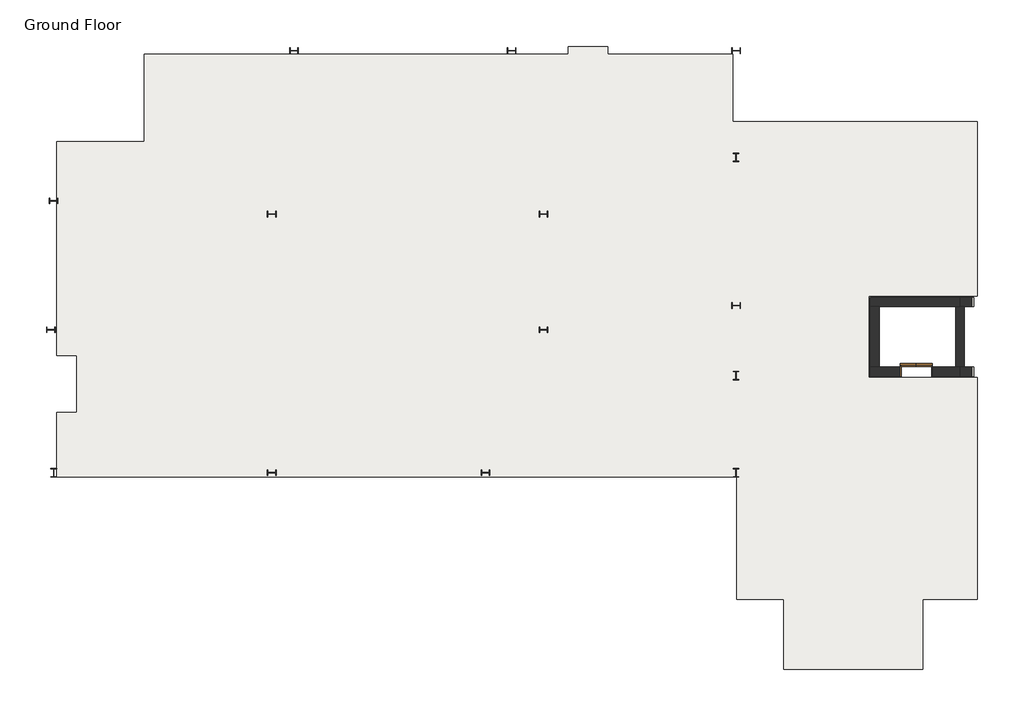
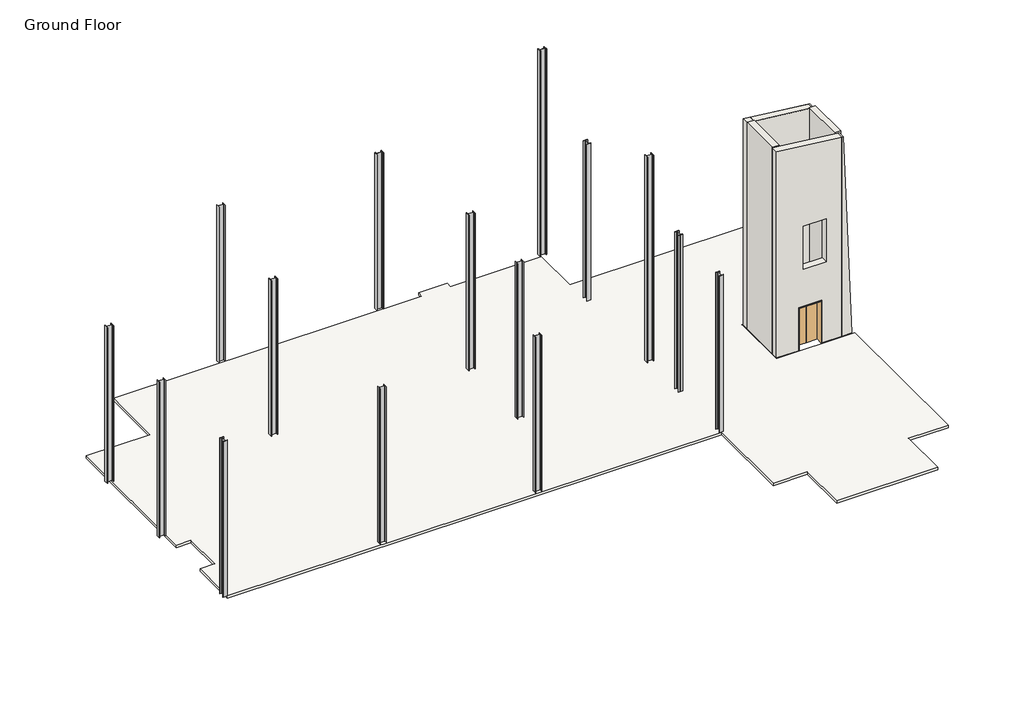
# One storey: 15 columns, 7 walls, 1 door, 1 slab.
"""IFC4 building model written with IfcOpenShell, lengths in millimetres."""

import ifcopenshell
import ifcopenshell.guid

model = None  # the IFC model being written
_history = None  # IfcOwnerHistory: only IFC2X3 demands one
_inside = {}  # id of a spatial element -> (the spatial element, [elements in it])
_under = {}  # id of a project, library or spatial element -> (it, [spatial elements below it])
_declared = {}  # id of a project -> (the project, [libraries it declares])
_typed = {}  # id of a type object -> (the type object, [elements of that type])
_made_of = {}  # id of a material, layer set ... -> (it, [elements and type objects made of it])


def new_model(schema):
    """Start an empty IFC model of exactly this schema.

    Asked for "IFC4X3", IfcOpenShell would pick the latest addendum, in which some entities
    have other attributes; the version numbers below select the first issue.
    IFC2X3 requires an IfcOwnerHistory on every rooted entity: one is made here for all.
    """
    global model, _history
    if schema == "IFC4X3":
        model = ifcopenshell.file(schema_version=(4, 3, 0, 0))
    else:
        model = ifcopenshell.file(schema=schema)
    _inside.clear()
    _under.clear()
    _declared.clear()
    _typed.clear()
    _made_of.clear()
    _history = None
    if model.schema == "IFC2X3":
        org = make("IfcOrganization", Name="unknown")
        user = make(
            "IfcPersonAndOrganization",
            ThePerson=make("IfcPerson", FamilyName="unknown"),
            TheOrganization=org,
        )
        app = make(
            "IfcApplication",
            ApplicationDeveloper=org,
            Version="unknown",
            ApplicationFullName="unknown",
            ApplicationIdentifier="unknown",
        )
        _history = make(
            "IfcOwnerHistory",
            OwningUser=user,
            OwningApplication=app,
            ChangeAction="ADDED",
            CreationDate=0,
        )
    return model


def make(cls, **values):
    """One entity of the class cls with the attributes given. An attribute that is None is left unset."""
    return model.create_entity(
        cls, **{name: value for name, value in values.items() if value is not None}
    )


def rooted(cls, **values):
    """An entity with a GlobalId (a new one), such as an element, a storey or a relation."""
    return make(cls, GlobalId=ifcopenshell.guid.new(), OwnerHistory=_history, **values)


def si_unit(unit_type, name, prefix=None):
    """IfcSIUnit, for example si_unit("LENGTHUNIT", "METRE", prefix="MILLI")."""
    return make("IfcSIUnit", UnitType=unit_type, Prefix=prefix, Name=name)


def assignment(units):
    """IfcUnitAssignment: the units of a project."""
    return None if units is None else make("IfcUnitAssignment", Units=units)


def point(xyz):
    """IfcCartesianPoint."""
    return None if xyz is None else make("IfcCartesianPoint", Coordinates=xyz)


def direction(xyz):
    """IfcDirection."""
    return None if xyz is None else make("IfcDirection", DirectionRatios=xyz)


def frame(location, z_axis=None, x_axis=None):
    """IfcAxis2Placement3D, a coordinate frame: its origin and axes. An axis left out is left unset."""
    return make(
        "IfcAxis2Placement3D",
        Location=point(location),
        Axis=direction(z_axis),
        RefDirection=direction(x_axis),
    )


def frame_2d(location, x_axis=None):
    """IfcAxis2Placement2D, a coordinate frame in the plane: its origin and x axis."""
    return make(
        "IfcAxis2Placement2D", Location=point(location), RefDirection=direction(x_axis)
    )


def origin():
    """The frame at (0, 0, 0) with its axes left unset."""
    return frame((0.0, 0.0, 0.0))


def origin_with_axes():
    """The frame at (0, 0, 0) with the z axis (0, 0, 1) and the x axis (1, 0, 0) written out."""
    return frame((0.0, 0.0, 0.0), z_axis=(0.0, 0.0, 1.0), x_axis=(1.0, 0.0, 0.0))


def place(relative_to, where):
    """IfcLocalPlacement: puts the frame where relative to a parent placement (None: the world)."""
    return make(
        "IfcLocalPlacement", PlacementRelTo=relative_to, RelativePlacement=where
    )


def context(
    kind, dimensions, precision=None, world=None, true_north=None, identifier=None
):
    """IfcGeometricRepresentationContext, for example the 3D "Model" context."""
    return make(
        "IfcGeometricRepresentationContext",
        ContextIdentifier=identifier,
        ContextType=kind,
        CoordinateSpaceDimension=dimensions,
        Precision=precision,
        WorldCoordinateSystem=world,
        TrueNorth=true_north,
    )


def project(units=None, contexts=None):
    """IfcProject with its units and contexts."""
    return rooted(
        "IfcProject",
        Name="project",
        RepresentationContexts=contexts,
        UnitsInContext=assignment(units),
    )


def spatial(cls, under=None, at=None, **own):
    """A site, building, storey or space (cls), placed at a placement, below another one or the project."""
    s = rooted(cls, ObjectPlacement=at, **own)
    if under is not None:
        _under.setdefault(under.id(), (under, []))[1].append(s)
    return s


def polyline(points):
    """IfcPolyline through the points."""
    return make("IfcPolyline", Points=[point(p) for p in points])


def circle_curve(where, radius):
    """IfcCircle in the frame where."""
    return make("IfcCircle", Position=where, Radius=radius)


def trimmed(basis, trim1, trim2, sense, master):
    """IfcTrimmedCurve: the piece of a basis curve between two trims."""
    return make(
        "IfcTrimmedCurve",
        BasisCurve=basis,
        Trim1=trim1,
        Trim2=trim2,
        SenseAgreement=sense,
        MasterRepresentation=master,
    )


def segment(curve, same_sense, transition):
    """IfcCompositeCurveSegment."""
    return make(
        "IfcCompositeCurveSegment",
        Transition=transition,
        SameSense=same_sense,
        ParentCurve=curve,
    )


def composite_curve(segments, self_intersect=None):
    """IfcCompositeCurve: segments joined end to end."""
    return make("IfcCompositeCurve", Segments=segments, SelfIntersect=self_intersect)


def outline(outer, holes=None, kind="AREA"):
    """IfcArbitraryClosedProfileDef: a profile drawn as a closed curve; with holes, ...WithVoids."""
    if holes is None:
        return make("IfcArbitraryClosedProfileDef", ProfileType=kind, OuterCurve=outer)
    return make(
        "IfcArbitraryProfileDefWithVoids",
        ProfileType=kind,
        OuterCurve=outer,
        InnerCurves=holes,
    )


def extrude(swept, where, along, depth):
    """IfcExtrudedAreaSolid: the profile swept, set in the frame where, extruded along a direction by depth."""
    return make(
        "IfcExtrudedAreaSolid",
        SweptArea=swept,
        Position=where,
        ExtrudedDirection=direction(along),
        Depth=depth,
    )


def faces_of(points, faces, orient=None, outer=None):
    """IfcFace entities. A face is a list of loops; a loop is a list of indices into points, from 0.

    orient and outer hold one flag for each loop. By default every Orientation is true, the
    first loop of a face is its IfcFaceOuterBound and the others are IfcFaceBound.
    """
    made = []
    for i, loops in enumerate(faces):
        bounds = []
        for j, loop in enumerate(loops):
            is_outer = j == 0 if outer is None else outer[i][j]
            bounds.append(
                make(
                    "IfcFaceOuterBound" if is_outer else "IfcFaceBound",
                    Bound=make("IfcPolyLoop", Polygon=[points[k] for k in loop]),
                    Orientation=True if orient is None else orient[i][j],
                )
            )
        made.append(make("IfcFace", Bounds=bounds))
    return made


def faceted_brep(points, faces, orient=None, outer=None, voids=None):
    """IfcFacetedBrep: a solid bounded by flat faces; with voids (closed shells), ...WithVoids."""
    shared = [point(p) for p in points]
    hull = make("IfcClosedShell", CfsFaces=faces_of(shared, faces, orient, outer))
    if voids is None:
        return make("IfcFacetedBrep", Outer=hull)
    return make(
        "IfcFacetedBrepWithVoids",
        Outer=hull,
        Voids=[
            make(cls, CfsFaces=faces_of(shared, fs, o, b)) for cls, fs, o, b in voids
        ],
    )


def shape(context_of_items, identifier, shape_type, items):
    """IfcShapeRepresentation: the items that make up one representation, for example the "Body"."""
    return make(
        "IfcShapeRepresentation",
        ContextOfItems=context_of_items,
        RepresentationIdentifier=identifier,
        RepresentationType=shape_type,
        Items=items,
    )


def source(mapping_origin, context_of_items, identifier, shape_type, items):
    """IfcRepresentationMap: a shape defined once, which mapped items show again and again."""
    return make(
        "IfcRepresentationMap",
        MappingOrigin=mapping_origin,
        MappedRepresentation=shape(context_of_items, identifier, shape_type, items),
    )


def transform(
    local_origin,
    x_axis=None,
    y_axis=None,
    z_axis=None,
    scale=None,
    scale2=None,
    scale3=None,
    uniform=True,
):
    """IfcCartesianTransformationOperator3D, or its non-uniform kind. x_axis, y_axis, z_axis: its Axis1, 2, 3."""
    if uniform:
        return make(
            "IfcCartesianTransformationOperator3D",
            Axis1=direction(x_axis),
            Axis2=direction(y_axis),
            LocalOrigin=point(local_origin),
            Scale=scale,
            Axis3=direction(z_axis),
        )
    return make(
        "IfcCartesianTransformationOperator3DnonUniform",
        Axis1=direction(x_axis),
        Axis2=direction(y_axis),
        LocalOrigin=point(local_origin),
        Scale=scale,
        Axis3=direction(z_axis),
        Scale2=scale2,
        Scale3=scale3,
    )


def mapped(mapping_source, mapping_target):
    """IfcMappedItem: shows the shape of a source again, moved by a transform."""
    return make(
        "IfcMappedItem", MappingSource=mapping_source, MappingTarget=mapping_target
    )


def made_of(thing, what):
    """Note that an element or type object is made of a material, layer set ...; save() writes the relation."""
    if what is not None:
        _made_of.setdefault(what.id(), (what, []))[1].append(thing)
    return thing


def element(
    cls,
    number,
    at=None,
    inside=None,
    cuts=None,
    type_object=None,
    material=None,
    context=None,
    identifier="Body",
    shape_type=None,
    held_by="IfcProductDefinitionShape",
    body=None,
    shapes=None,
    **own,
):
    """One element of the class cls, such as IfcWall. Its Tag is "e" and its number.

    at: its placement. inside: the storey or other place that contains it. cuts: it is an
    opening in that element (IfcRelVoidsElement). A single representation is given by context,
    identifier, shape_type and body (its items); several are given by shapes. held_by: the class
    of the entity that holds the representations. save() writes the other relations.
    """
    e = rooted(cls, Tag="e%d" % number, ObjectPlacement=at, **own)
    if body is not None:
        shapes = [shape(context, identifier, shape_type, body)]
    if shapes is not None:
        e.Representation = make(held_by, Representations=shapes)
    if inside is not None:
        _inside.setdefault(inside.id(), (inside, []))[1].append(e)
    if cuts is not None:
        rooted(
            "IfcRelVoidsElement", RelatingBuildingElement=cuts, RelatedOpeningElement=e
        )
    if type_object is not None:
        _typed.setdefault(type_object.id(), (type_object, []))[1].append(e)
    return made_of(e, material)


def aggregate(whole, parts):
    """IfcRelAggregates: a whole, such as a stair, and the parts it consists of."""
    return rooted("IfcRelAggregates", RelatingObject=whole, RelatedObjects=parts)


def save(model, path):
    """Write the relations noted so far, then the file.

    IfcRelAggregates (storeys below a building ...), IfcRelContainedInSpatialStructure (elements
    in a storey), IfcRelDefinesByType, IfcRelAssociatesMaterial and IfcRelDeclares: one each for
    every whole, place, type object, material and project.
    """
    for whole, parts in _under.values():
        aggregate(whole, parts)
    for where, things in _inside.values():
        rooted(
            "IfcRelContainedInSpatialStructure",
            RelatedElements=things,
            RelatingStructure=where,
        )
    for kind, things in _typed.values():
        rooted("IfcRelDefinesByType", RelatedObjects=things, RelatingType=kind)
    for what, things in _made_of.values():
        rooted("IfcRelAssociatesMaterial", RelatedObjects=things, RelatingMaterial=what)
    for by, libraries in _declared.values():
        rooted("IfcRelDeclares", RelatingContext=by, RelatedDefinitions=libraries)
    model.write(path)


def w_wide_flange_column_w12x40_bfea6e2c(model_context):
    return source(origin(), model_context, "Body", "SweptSolid", [
        extrude(outline(composite_curve([segment(polyline([(101.6496094, 151.6558594), (101.6496094, 138.5589844), (25.5984375, 138.5589844)]), True, "CONTINUOUS"), segment(trimmed(circle_curve(frame_2d((25.5984375, 116.7308594)), 21.828125), [point((25.5984375, 138.5589844))], [point((3.7703125, 116.7308594))], True, "CARTESIAN"), True, "CONTINUOUS"), segment(polyline([(3.7703125, 116.7308594), (3.7703125, -116.7308594)]), True, "CONTINUOUS"), segment(trimmed(circle_curve(frame_2d((25.5984375, -116.7308594)), 21.828125), [point((3.7703125, -116.7308594))], [point((25.5984375, -138.5589844))], True, "CARTESIAN"), True, "CONTINUOUS"), segment(polyline([(25.5984375, -138.5589844), (101.6496094, -138.5589844), (101.6496094, -151.6558594), (-101.6496094, -151.6558594), (-101.6496094, -138.5589844), (-25.5984375, -138.5589844)]), True, "CONTINUOUS"), segment(trimmed(circle_curve(frame_2d((-25.5984375, -116.7308594)), 21.828125), [point((-25.5984375, -138.5589844))], [point((-3.7703125, -116.7308594))], True, "CARTESIAN"), True, "CONTINUOUS"), segment(polyline([(-3.7703125, -116.7308594), (-3.7703125, 116.7308594)]), True, "CONTINUOUS"), segment(trimmed(circle_curve(frame_2d((-25.5984375, 116.7308594)), 21.828125), [point((-3.7703125, 116.7308594))], [point((-25.5984375, 138.5589844))], True, "CARTESIAN"), True, "CONTINUOUS"), segment(polyline([(-25.5984375, 138.5589844), (-101.6496094, 138.5589844), (-101.6496094, 151.6558594), (101.6496094, 151.6558594)]), True, "CONTINUOUS")], self_intersect=False)), frame((0.0, 0.0, 30480.0), z_axis=(0.0, 0.0, 1.0), x_axis=(1.0, 0.0, 0.0)), (0.0, 0.0, 1.0), 7924.8),
    ])


def door_aaeb5b8c(model_context):
    return source(origin(), model_context, "Body", "SweptSolid", [
        extrude(outline(polyline([(0.0, 234.95), (0.0, 279.4), (558.8, 279.4), (558.8, 234.95), (0.0, 234.95)])), origin_with_axes(), (0.0, 0.0, 1.0), 2184.4),
        extrude(outline(polyline([(0.0, 234.95), (-558.8, 234.95), (-558.8, 279.4), (0.0, 279.4), (0.0, 234.95)])), origin_with_axes(), (0.0, 0.0, 1.0), 2184.4),
        extrude(outline(polyline([(-533.4, -165.1), (-558.8, -165.1), (-558.8, 177.8), (-533.4, 177.8), (-533.4, -165.1)])), origin_with_axes(), (0.0, 0.0, 1.0), 2184.4),
        extrude(outline(polyline([(558.8, -165.1), (533.4, -165.1), (533.4, 177.8), (558.8, 177.8), (558.8, -165.1)])), origin_with_axes(), (0.0, 0.0, 1.0), 2184.4),
        extrude(outline(polyline([(482.6, 165.1), (482.6, -165.1), (-482.6, -165.1), (-482.6, 165.1), (482.6, 165.1)])), frame((0.0, 0.0, 2133.6), z_axis=(0.0, 0.0, 1.0), x_axis=(1.0, 0.0, 0.0)), (0.0, 0.0, 1.0), 50.8),
        extrude(outline(polyline([(0.0, 177.8), (0.0, 222.25), (558.8, 222.25), (558.8, 177.8), (0.0, 177.8)])), origin_with_axes(), (0.0, 0.0, 1.0), 2184.4),
        extrude(outline(polyline([(0.0, 177.8), (-558.8, 177.8), (-558.8, 222.25), (0.0, 222.25), (0.0, 177.8)])), origin_with_axes(), (0.0, 0.0, 1.0), 2184.4),
    ])


model = new_model("IFC4")

# Units and contexts
model_context = context("Model", 3, world=origin())
ifc_project = project(units=[si_unit("LENGTHUNIT", "METRE", prefix="MILLI")], contexts=[model_context])

# Site, building, storey
site = spatial("IfcSite", under=ifc_project)
building = spatial("IfcBuilding", under=site)
storey = spatial("IfcBuildingStorey", under=building, Name="Ground Floor", Elevation=30480.0)

# Columns
placement = place(None, origin())
element("IfcColumn", 1, ObjectType="W-Wide Flange-Column : W12X40", at=placement, inside=storey, context=model_context, shape_type="SweptSolid", body=[
    extrude(outline(composite_curve([segment(polyline([(13669.3791487, -6791.0746401), (13669.3791487, -6804.1715151), (13593.3279768, -6804.1715151)]), True, "CONTINUOUS"), segment(trimmed(circle_curve(frame_2d((13593.3279768, -6825.9996401)), 21.828125), [point((13593.3279768, -6804.1715151))], [point((13571.4998518, -6825.9996401))], True, "CARTESIAN"), True, "CONTINUOUS"), segment(polyline([(13571.4998518, -6825.9996401), (13571.4998518, -7059.4613589)]), True, "CONTINUOUS"), segment(trimmed(circle_curve(frame_2d((13593.3279768, -7059.4613589)), 21.828125), [point((13571.4998518, -7059.4613589))], [point((13593.3279768, -7081.2894839))], True, "CARTESIAN"), True, "CONTINUOUS"), segment(polyline([(13593.3279768, -7081.2894839), (13669.3791487, -7081.2894839), (13669.3791487, -7094.3863589), (13466.0799299, -7094.3863589), (13466.0799299, -7081.2894839), (13542.1311018, -7081.2894839)]), True, "CONTINUOUS"), segment(trimmed(circle_curve(frame_2d((13542.1311018, -7059.4613589)), 21.828125), [point((13542.1311018, -7081.2894839))], [point((13563.9592268, -7059.4613589))], True, "CARTESIAN"), True, "CONTINUOUS"), segment(polyline([(13563.9592268, -7059.4613589), (13563.9592268, -6825.9996401)]), True, "CONTINUOUS"), segment(trimmed(circle_curve(frame_2d((13542.1311018, -6825.9996401)), 21.828125), [point((13563.9592268, -6825.9996401))], [point((13542.1311018, -6804.1715151))], True, "CARTESIAN"), True, "CONTINUOUS"), segment(polyline([(13542.1311018, -6804.1715151), (13466.0799299, -6804.1715151), (13466.0799299, -6791.0746401), (13669.3791487, -6791.0746401)]), True, "CONTINUOUS")], self_intersect=False)), frame((0.0, 0.0, 30480.0), z_axis=(0.0, 0.0, 1.0), x_axis=(1.0, 0.0, 0.0)), (0.0, 0.0, 1.0), 7988.3),
])
element("IfcColumn", 2, ObjectType="W-Wide Flange-Column : W12X40", at=placement, inside=storey, context=model_context, shape_type="SweptSolid", body=[
    extrude(outline(composite_curve([segment(polyline([(-10575.3444063, -1833.0779639), (-10562.2475313, -1833.0779639), (-10562.2475313, -1909.1291357)]), True, "CONTINUOUS"), segment(trimmed(circle_curve(frame_2d((-10540.4194063, -1909.1291357)), 21.828125), [point((-10562.2475313, -1909.1291357))], [point((-10540.4194063, -1930.9572607))], True, "CARTESIAN"), True, "CONTINUOUS"), segment(polyline([(-10540.4194063, -1930.9572607), (-10306.9576875, -1930.9572607)]), True, "CONTINUOUS"), segment(trimmed(circle_curve(frame_2d((-10306.9576875, -1909.1291357)), 21.828125), [point((-10306.9576875, -1930.9572607))], [point((-10285.1295625, -1909.1291357))], True, "CARTESIAN"), True, "CONTINUOUS"), segment(polyline([(-10285.1295625, -1909.1291357), (-10285.1295625, -1833.0779639), (-10272.0326875, -1833.0779639), (-10272.0326875, -2036.3771826), (-10285.1295625, -2036.3771826), (-10285.1295625, -1960.3260107)]), True, "CONTINUOUS"), segment(trimmed(circle_curve(frame_2d((-10306.9576875, -1960.3260107)), 21.828125), [point((-10285.1295625, -1960.3260107))], [point((-10306.9576875, -1938.4978857))], True, "CARTESIAN"), True, "CONTINUOUS"), segment(polyline([(-10306.9576875, -1938.4978857), (-10540.4194063, -1938.4978857)]), True, "CONTINUOUS"), segment(trimmed(circle_curve(frame_2d((-10540.4194063, -1960.3260107)), 21.828125), [point((-10540.4194063, -1938.4978857))], [point((-10562.2475313, -1960.3260107))], True, "CARTESIAN"), True, "CONTINUOUS"), segment(polyline([(-10562.2475313, -1960.3260107), (-10562.2475313, -2036.3771826), (-10575.3444063, -2036.3771826), (-10575.3444063, -1833.0779639)]), True, "CONTINUOUS")], self_intersect=False)), frame((0.0, 0.0, 30480.0), z_axis=(0.0, 0.0, 1.0), x_axis=(1.0, 0.0, 0.0)), (0.0, 0.0, 1.0), 7924.8),
])
element("IfcColumn", 3, ObjectType="W-Wide Flange-Column : W12X40", at=placement, inside=storey, context=model_context, shape_type="SweptSolid", body=[
    extrude(outline(composite_curve([segment(polyline([(13416.0736799, 7944.8941099), (13429.1705549, 7944.8941099), (13429.1705549, 7868.842938)]), True, "CONTINUOUS"), segment(trimmed(circle_curve(frame_2d((13450.9986799, 7868.842938)), 21.828125), [point((13429.1705549, 7868.842938))], [point((13450.9986799, 7847.014813))], True, "CARTESIAN"), True, "CONTINUOUS"), segment(polyline([(13450.9986799, 7847.014813), (13684.4603987, 7847.014813)]), True, "CONTINUOUS"), segment(trimmed(circle_curve(frame_2d((13684.4603987, 7868.842938)), 21.828125), [point((13684.4603987, 7847.014813))], [point((13706.2885237, 7868.842938))], True, "CARTESIAN"), True, "CONTINUOUS"), segment(polyline([(13706.2885237, 7868.842938), (13706.2885237, 7944.8941099), (13719.3853987, 7944.8941099), (13719.3853987, 7741.5948911), (13706.2885237, 7741.5948911), (13706.2885237, 7817.646063)]), True, "CONTINUOUS"), segment(trimmed(circle_curve(frame_2d((13684.4603987, 7817.646063)), 21.828125), [point((13706.2885237, 7817.646063))], [point((13684.4603987, 7839.474188))], True, "CARTESIAN"), True, "CONTINUOUS"), segment(polyline([(13684.4603987, 7839.474188), (13450.9986799, 7839.474188)]), True, "CONTINUOUS"), segment(trimmed(circle_curve(frame_2d((13450.9986799, 7817.646063)), 21.828125), [point((13450.9986799, 7839.474188))], [point((13429.1705549, 7817.646063))], True, "CARTESIAN"), True, "CONTINUOUS"), segment(polyline([(13429.1705549, 7817.646063), (13429.1705549, 7741.5948911), (13416.0736799, 7741.5948911), (13416.0736799, 7944.8941099)]), True, "CONTINUOUS")], self_intersect=False)), frame((0.0, 0.0, 30480.0), z_axis=(0.0, 0.0, 1.0), x_axis=(1.0, 0.0, 0.0)), (0.0, 0.0, 1.0), 10466.7908493),
])
element("IfcColumn", 4, ObjectType="W-Wide Flange-Column : W12X40", at=placement, inside=storey, context=model_context, shape_type="SweptSolid", body=[
    extrude(outline(composite_curve([segment(polyline([(13466.0799299, 3954.6136411), (13466.0799299, 3967.7105161), (13542.1311018, 3967.7105161)]), True, "CONTINUOUS"), segment(trimmed(circle_curve(frame_2d((13542.1311018, 3989.5386411)), 21.828125), [point((13542.1311018, 3967.7105161))], [point((13563.9592268, 3989.5386411))], True, "CARTESIAN"), True, "CONTINUOUS"), segment(polyline([(13563.9592268, 3989.5386411), (13563.9592268, 4223.0003599)]), True, "CONTINUOUS"), segment(trimmed(circle_curve(frame_2d((13542.1311018, 4223.0003599)), 21.828125), [point((13563.9592268, 4223.0003599))], [point((13542.1311018, 4244.8284849))], True, "CARTESIAN"), True, "CONTINUOUS"), segment(polyline([(13542.1311018, 4244.8284849), (13466.0799299, 4244.8284849), (13466.0799299, 4257.9253599), (13669.3791487, 4257.9253599), (13669.3791487, 4244.8284849), (13593.3279768, 4244.8284849)]), True, "CONTINUOUS"), segment(trimmed(circle_curve(frame_2d((13593.3279768, 4223.0003599)), 21.828125), [point((13593.3279768, 4244.8284849))], [point((13571.4998518, 4223.0003599))], True, "CARTESIAN"), True, "CONTINUOUS"), segment(polyline([(13571.4998518, 4223.0003599), (13571.4998518, 3989.5386411)]), True, "CONTINUOUS"), segment(trimmed(circle_curve(frame_2d((13593.3279768, 3989.5386411)), 21.828125), [point((13571.4998518, 3989.5386411))], [point((13593.3279768, 3967.7105161))], True, "CARTESIAN"), True, "CONTINUOUS"), segment(polyline([(13593.3279768, 3967.7105161), (13669.3791487, 3967.7105161), (13669.3791487, 3954.6136411), (13466.0799299, 3954.6136411)]), True, "CONTINUOUS")], self_intersect=False)), frame((0.0, 0.0, 30480.0), z_axis=(0.0, 0.0, 1.0), x_axis=(1.0, 0.0, 0.0)), (0.0, 0.0, 1.0), 7988.3),
])
element("IfcColumn", 5, ObjectType="W-Wide Flange-Column : W12X40", at=placement, inside=storey, context=model_context, shape_type="SweptSolid", body=[
    extrude(outline(composite_curve([segment(polyline([(13719.3853987, -1186.5051089), (13706.2885237, -1186.5051089), (13706.2885237, -1110.453937)]), True, "CONTINUOUS"), segment(trimmed(circle_curve(frame_2d((13684.4603987, -1110.453937)), 21.828125), [point((13706.2885237, -1110.453937))], [point((13684.4603987, -1088.625812))], True, "CARTESIAN"), True, "CONTINUOUS"), segment(polyline([(13684.4603987, -1088.625812), (13450.9986799, -1088.625812)]), True, "CONTINUOUS"), segment(trimmed(circle_curve(frame_2d((13450.9986799, -1110.453937)), 21.828125), [point((13450.9986799, -1088.625812))], [point((13429.1705549, -1110.453937))], True, "CARTESIAN"), True, "CONTINUOUS"), segment(polyline([(13429.1705549, -1110.453937), (13429.1705549, -1186.5051089), (13416.0736799, -1186.5051089), (13416.0736799, -983.2058901), (13429.1705549, -983.2058901), (13429.1705549, -1059.257062)]), True, "CONTINUOUS"), segment(trimmed(circle_curve(frame_2d((13450.9986799, -1059.257062)), 21.828125), [point((13429.1705549, -1059.257062))], [point((13450.9986799, -1081.085187))], True, "CARTESIAN"), True, "CONTINUOUS"), segment(polyline([(13450.9986799, -1081.085187), (13684.4603987, -1081.085187)]), True, "CONTINUOUS"), segment(trimmed(circle_curve(frame_2d((13684.4603987, -1059.257062)), 21.828125), [point((13684.4603987, -1081.085187))], [point((13706.2885237, -1059.257062))], True, "CARTESIAN"), True, "CONTINUOUS"), segment(polyline([(13706.2885237, -1059.257062), (13706.2885237, -983.2058901), (13719.3853987, -983.2058901), (13719.3853987, -1186.5051089)]), True, "CONTINUOUS")], self_intersect=False)), frame((0.0, 0.0, 30480.0), z_axis=(0.0, 0.0, 1.0), x_axis=(1.0, 0.0, 0.0)), (0.0, 0.0, 1.0), 10466.8036839),
])
element("IfcColumn", 6, ObjectType="W-Wide Flange-Column : W12X40", at=placement, inside=storey, context=model_context, shape_type="SweptSolid", body=[
    extrude(outline(composite_curve([segment(polyline([(13669.3791487, -3387.4746401), (13669.3791487, -3400.5715151), (13593.3279768, -3400.5715151)]), True, "CONTINUOUS"), segment(trimmed(circle_curve(frame_2d((13593.3279768, -3422.3996401)), 21.828125), [point((13593.3279768, -3400.5715151))], [point((13571.4998518, -3422.3996401))], True, "CARTESIAN"), True, "CONTINUOUS"), segment(polyline([(13571.4998518, -3422.3996401), (13571.4998518, -3655.8613589)]), True, "CONTINUOUS"), segment(trimmed(circle_curve(frame_2d((13593.3279768, -3655.8613589)), 21.828125), [point((13571.4998518, -3655.8613589))], [point((13593.3279768, -3677.6894839))], True, "CARTESIAN"), True, "CONTINUOUS"), segment(polyline([(13593.3279768, -3677.6894839), (13669.3791487, -3677.6894839), (13669.3791487, -3690.7863589), (13466.0799299, -3690.7863589), (13466.0799299, -3677.6894839), (13542.1311018, -3677.6894839)]), True, "CONTINUOUS"), segment(trimmed(circle_curve(frame_2d((13542.1311018, -3655.8613589)), 21.828125), [point((13542.1311018, -3677.6894839))], [point((13563.9592268, -3655.8613589))], True, "CARTESIAN"), True, "CONTINUOUS"), segment(polyline([(13563.9592268, -3655.8613589), (13563.9592268, -3422.3996401)]), True, "CONTINUOUS"), segment(trimmed(circle_curve(frame_2d((13542.1311018, -3422.3996401)), 21.828125), [point((13563.9592268, -3422.3996401))], [point((13542.1311018, -3400.5715151))], True, "CARTESIAN"), True, "CONTINUOUS"), segment(polyline([(13542.1311018, -3400.5715151), (13466.0799299, -3400.5715151), (13466.0799299, -3387.4746401), (13669.3791487, -3387.4746401)]), True, "CONTINUOUS")], self_intersect=False)), frame((0.0, 0.0, 30480.0), z_axis=(0.0, 0.0, 1.0), x_axis=(1.0, 0.0, 0.0)), (0.0, 0.0, 1.0), 7988.3),
])
w_wide_flange_column_w12x40_shape = w_wide_flange_column_w12x40_bfea6e2c(model_context)
element("IfcColumn", 7, ObjectType="W-Wide Flange-Column : W12X40", at=placement, inside=storey, context=model_context, shape_type="MappedRepresentation", body=[
    mapped(w_wide_flange_column_w12x40_shape, transform((-10327.3204607, -6942.7304995, 0.0), x_axis=(1.0, 0.0, 0.0), y_axis=(0.0, 1.0, 0.0), z_axis=(0.0, 0.0, 1.0))),
])
element("IfcColumn", 8, ObjectType="W-Wide Flange-Column : W12X40", at=placement, inside=storey, context=model_context, shape_type="MappedRepresentation", body=[
    mapped(w_wide_flange_column_w12x40_shape, transform((-2689.8579607, -6942.7304995, 0.0), x_axis=(0.0, 1.0000000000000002, 0.0), y_axis=(-1.0000000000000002, 0.0, 0.0), z_axis=(0.0, 0.0, 1.0))),
])
element("IfcColumn", 9, ObjectType="W-Wide Flange-Column : W12X40", at=placement, inside=storey, context=model_context, shape_type="MappedRepresentation", body=[
    mapped(w_wide_flange_column_w12x40_shape, transform((4795.2045393, -6942.7304995, 0.0), x_axis=(0.0, 1.0000000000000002, 0.0), y_axis=(-1.0000000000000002, 0.0, 0.0), z_axis=(0.0, 0.0, 1.0))),
])
element("IfcColumn", 10, ObjectType="W-Wide Flange-Column : W12X40", at=placement, inside=storey, context=model_context, shape_type="MappedRepresentation", body=[
    mapped(w_wide_flange_column_w12x40_shape, transform((6825.6170393, -1935.7554995, 0.0), x_axis=(0.0, -1.0000000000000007, 0.0), y_axis=(1.0000000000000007, 0.0, 0.0), z_axis=(0.0, 0.0, 1.0))),
])
element("IfcColumn", 11, ObjectType="W-Wide Flange-Column : W12X40", at=placement, inside=storey, context=model_context, shape_type="MappedRepresentation", body=[
    mapped(w_wide_flange_column_w12x40_shape, transform((-2689.8579607, 2125.0695005, 0.0), x_axis=(0.0, 1.0, 0.0), y_axis=(-1.0, 0.0, 0.0), z_axis=(0.0, 0.0, 1.0))),
])
element("IfcColumn", 12, ObjectType="W-Wide Flange-Column : W12X40", at=placement, inside=storey, context=model_context, shape_type="MappedRepresentation", body=[
    mapped(w_wide_flange_column_w12x40_shape, transform((6825.6170393, 2125.0695005, 0.0), x_axis=(0.0, 1.0000000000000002, 0.0), y_axis=(-1.0000000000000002, 0.0, 0.0), z_axis=(0.0, 0.0, 1.0))),
])
element("IfcColumn", 13, ObjectType="W-Wide Flange-Column : W12X40", at=placement, inside=storey, context=model_context, shape_type="MappedRepresentation", body=[
    mapped(w_wide_flange_column_w12x40_shape, transform((-1910.3954607, 7843.2445005, 0.0), x_axis=(0.0, 1.0000000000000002, 0.0), y_axis=(-1.0000000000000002, 0.0, 0.0), z_axis=(0.0, 0.0, 1.0))),
])
element("IfcColumn", 14, ObjectType="W-Wide Flange-Column : W12X40", at=placement, inside=storey, context=model_context, shape_type="MappedRepresentation", body=[
    mapped(w_wide_flange_column_w12x40_shape, transform((5709.6045393, 7843.2445005, 0.0), x_axis=(0.0, 1.0000000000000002, 0.0), y_axis=(-1.0000000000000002, 0.0, 0.0), z_axis=(0.0, 0.0, 1.0))),
])
element("IfcColumn", 15, ObjectType="W-Wide Flange-Column : W12X40", at=placement, inside=storey, context=model_context, shape_type="MappedRepresentation", body=[
    mapped(w_wide_flange_column_w12x40_shape, transform((-10327.3204607, 2582.2695005, 0.0), x_axis=(0.0, 1.0000000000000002, 0.0), y_axis=(-1.0000000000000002, 0.0, 0.0), z_axis=(0.0, 0.0, 1.0))),
])

# Door
door_shape = door_aaeb5b8c(model_context)
element("IfcDoor", 16, ObjectType="Elevator_Door_CabCenter-Genericrfa : 42\" Opening", at=placement, inside=storey, context=model_context, shape_type="MappedRepresentation", body=[
    mapped(door_shape, transform((19883.5486799, -3399.4304995, 30480.0), x_axis=(1.0, 0.0, 0.0), y_axis=(0.0, 1.0, 0.0), z_axis=(0.0, 0.0, 1.0))),
])

# Slab
element("IfcSlab", 17, ObjectType="5\" Concrete", at=placement, inside=storey, context=model_context, shape_type="SweptSolid", body=[
    extrude(outline(polyline([(7700.3295393, 7725.7695005), (7700.3295393, 7992.4695005), (9071.9295393, 7992.4695005), (9071.9295393, 7725.7695005), (13450.2545393, 7725.7695005), (13450.2545393, 5350.8695005), (22019.578935, 5350.8695005), (22019.578935, -757.8304995), (18219.8486799, -757.8304995), (18219.8486799, -3602.6304995), (22019.578935, -3602.6304995), (22019.578935, -11381.3804995), (20105.0545393, -11381.3804995), (20105.0545393, -13826.1304995), (15240.9545393, -13826.1304995), (15240.9545393, -11381.3804995), (13583.6045393, -11381.3804995), (13583.6045393, -7095.1304995), (-10225.7204607, -7095.1304995), (-10225.7204607, -4821.8304995), (-9524.0454607, -4821.8304995), (-9524.0454607, -2837.4554995), (-10225.7204607, -2837.4554995), (-10225.7204607, 4661.8945005), (-7149.1454607, 4661.8945005), (-7149.1454607, 7725.7695005), (7700.3295393, 7725.7695005)])), frame((0.0, 0.0, 30353.0), z_axis=(0.0, 0.0, 1.0), x_axis=(1.0, 0.0, 0.0)), (0.0, 0.0, 1.0), 127.0),
])

# Walls
element("IfcWall", 18, ObjectType="Elevator Wall - 12\" CMU w furring & Wood Planks", at=placement, inside=storey, context=model_context, shape_type="Brep", body=[
    faceted_brep([(18588.1486799, -3234.3304995, 30480.0), (18588.1486799, -1126.1304995, 30480.0), (18588.1486799, -1126.1304995, 40995.6), (18588.1486799, -3234.3304995, 40995.6), (18257.9486799, -3234.3304995, 30480.0), (18257.9486799, -3234.3304995, 40981.1907931), (18257.9486799, -3234.3304995, 40995.6), (18257.9486799, -1126.1304995, 40995.6), (18257.9486799, -1126.1304995, 40981.1907931), (18257.9486799, -1126.1304995, 30480.0)], [[[0, 1, 2, 3]], [[4, 5, 6, 7, 8, 9]], [[1, 0, 4, 9]], [[3, 2, 7, 6]], [[2, 1, 9, 8, 7]], [[0, 3, 6, 5, 4]]]),
])
element("IfcWall", 19, ObjectType="Elevator Wall - 12\" CMU w furring & Wood Planks", at=placement, inside=storey, context=model_context, shape_type="Brep", body=[
    faceted_brep([(18257.9486799, -1126.1304995, 40981.1907931), (18257.9486799, -1126.1304995, 30480.0), (18588.1486799, -1126.1304995, 30480.0), (21255.1486799, -1126.1304995, 30480.0), (21402.7861799, -1126.1304995, 30480.0), (21402.7861799, -1126.1304995, 40629.44646), (18257.9486799, -795.9304995, 30480.0), (18257.9486799, -795.9304995, 40981.1907931), (21402.7861799, -795.9304995, 40629.44646), (21402.7861799, -795.9304995, 30480.0)], [[[0, 1, 2, 3, 4, 5]], [[6, 7, 8, 9]], [[0, 7, 6, 1]], [[4, 3, 2, 1, 6, 9]], [[5, 4, 9, 8]], [[0, 5, 8, 7]]]),
])
element("IfcWall", 20, ObjectType="Elevator Wall - 12\" CMU w furring & Wood Planks", at=placement, inside=storey, context=model_context, shape_type="Brep", body=[
    faceted_brep([(21889.8617513, -3234.3304995, 30480.0), (21550.4236799, -3234.3304995, 30480.0), (21402.7861799, -3234.3304995, 30480.0), (21402.7861799, -3234.3304995, 40629.44646), (21467.4045193, -3234.3304995, 40622.2190167), (21889.8617513, -3564.5304995, 30480.0), (21467.4045193, -3564.5304995, 40622.2190167), (21402.7861799, -3564.5304995, 40629.44646), (21402.7861799, -3564.5304995, 30480.0)], [[[0, 1, 2, 3, 4]], [[5, 6, 7, 8]], [[2, 1, 0, 5, 8]], [[3, 2, 8, 7]], [[4, 3, 7, 6]], [[0, 4, 6, 5]]]),
])
element("IfcWall", 21, ObjectType="Elevator Wall - 12\" CMU w furring & Wood Planks", at=placement, inside=storey, context=model_context, shape_type="Brep", body=[
    faceted_brep([(21402.7861799, -1126.1304995, 30480.0), (21550.4236799, -1126.1304995, 30480.0), (21889.8617513, -1126.1304995, 30480.0), (21467.4045193, -1126.1304995, 40622.2190167), (21402.7861799, -1126.1304995, 40629.44646), (21402.7861799, -795.9304995, 30480.0), (21402.7861799, -795.9304995, 40629.44646), (21467.4045193, -795.9304995, 40622.2190167), (21889.8617513, -795.9304995, 30480.0)], [[[0, 1, 2, 3, 4]], [[5, 6, 7, 8]], [[2, 1, 0, 5, 8]], [[3, 2, 8, 7]], [[4, 3, 7, 6]], [[0, 4, 6, 5]]]),
])
element("IfcWall", 22, ObjectType="Elevator Wall - 12\" CMU w furring & Wood Planks", at=placement, inside=storey, context=model_context, shape_type="Brep", body=[
    faceted_brep([(18257.9486799, -3234.3304995, 40981.1907931), (21402.7861799, -3234.3304995, 40629.44646), (21402.7861799, -3234.3304995, 30480.0), (21255.1486799, -3234.3304995, 30480.0), (20442.3486799, -3234.3304995, 30480.0), (20442.3486799, -3234.3304995, 32664.4), (19324.7486799, -3234.3304995, 32664.4), (19324.7486799, -3234.3304995, 30480.0), (18588.1486799, -3234.3304995, 30480.0), (18257.9486799, -3234.3304995, 30480.0), (20665.8141096, -3234.3304995, 34544.0), (20665.8141096, -3234.3304995, 36728.4), (19548.2141096, -3234.3304995, 36728.4), (19548.2141096, -3234.3304995, 34544.0), (21402.7861799, -3564.5304995, 40629.44646), (18257.9486799, -3564.5304995, 40981.1907931), (18257.9486799, -3564.5304995, 30480.0), (19324.7486799, -3564.5304995, 30480.0), (19324.7486799, -3564.5304995, 32664.4), (20442.3486799, -3564.5304995, 32664.4), (20442.3486799, -3564.5304995, 30480.0), (21402.7861799, -3564.5304995, 30480.0), (20665.8141096, -3564.5304995, 34544.0), (19548.2141096, -3564.5304995, 34544.0), (19548.2141096, -3564.5304995, 36728.4), (20665.8141096, -3564.5304995, 36728.4)], [[[0, 1, 2, 3, 4, 5, 6, 7, 8, 9], [10, 11, 12, 13]], [[14, 15, 16, 17, 18, 19, 20, 21], [22, 23, 24, 25]], [[0, 9, 16, 15]], [[10, 13, 23, 22]], [[13, 12, 24, 23]], [[12, 11, 25, 24]], [[11, 10, 22, 25]], [[19, 5, 4, 20]], [[5, 19, 18, 6]], [[6, 18, 17, 7]], [[16, 9, 8, 7, 17]], [[2, 21, 20, 4, 3]], [[1, 0, 15, 14]], [[2, 1, 14, 21]]]),
])
element("IfcWall", 23, ObjectType="Elevator Wall - 12\" CMU w furring & Wood Planks", at=placement, inside=storey, context=model_context, shape_type="SweptSolid", body=[
    extrude(outline(polyline([(40944.2585259, 18588.1486799), (30480.0, 18588.1486799), (30480.0, 21889.8617513), (40622.2190167, 21467.4045193), (40944.2585259, 18588.1486799)])), frame((0.0, -1126.1304995, 0.0), z_axis=(0.0, 1.0, 0.0), x_axis=(0.0, 0.0, 1.0)), (0.0, 0.0, 1.0), 330.2),
])
element("IfcWall", 24, ObjectType="Elevator Wall - 12\" CMU", at=placement, inside=storey, context=model_context, shape_type="Brep", body=[
    faceted_brep([(21550.4236799, -3234.3304995, 40690.8), (21550.4236799, -3234.3304995, 30480.0), (21550.4236799, -1126.1304995, 30480.0), (21550.4236799, -1126.1304995, 40690.8), (21255.1486799, -3234.3304995, 30480.0), (21255.1486799, -3234.3304995, 40690.8), (21255.1486799, -1126.1304995, 40690.8), (21255.1486799, -1126.1304995, 30480.0), (21402.7861799, -3234.3304995, 30480.0), (21402.7861799, -1126.1304995, 30480.0)], [[[0, 1, 2, 3]], [[4, 5, 6, 7]], [[2, 1, 8, 4, 7, 9]], [[0, 3, 6, 5]], [[2, 9, 7, 6, 3]], [[0, 5, 4, 8, 1]]]),
])

save(model, "model.ifc")
